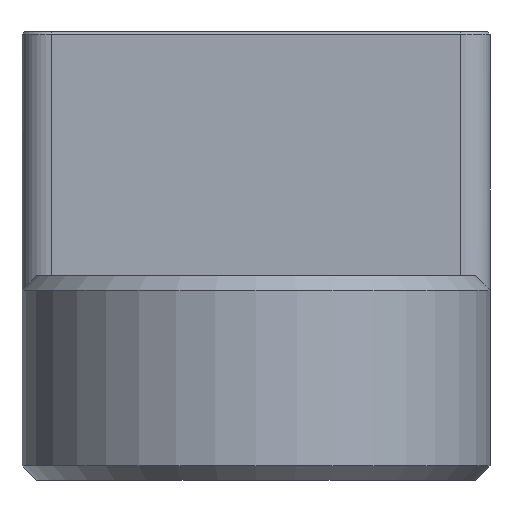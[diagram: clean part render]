
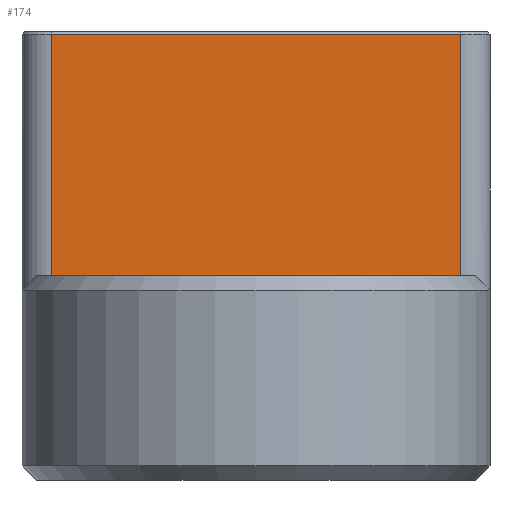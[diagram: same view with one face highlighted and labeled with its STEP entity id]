
A CAD part, front view. The second image highlights one B-rep face of the part: STEP entity #174.
In plain terms, the highlighted planar face has unit normal (0, -1, 0).
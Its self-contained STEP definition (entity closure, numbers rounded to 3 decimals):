
#174=ADVANCED_FACE('',(#417),#418,.F.);
#417=FACE_OUTER_BOUND('',#680,.T.);
#418=PLANE('',#681);
#680=EDGE_LOOP('',(#1464,#1465,#1466,#1467));
#681=AXIS2_PLACEMENT_3D('',#1468,#1469,#1470);
#1464=ORIENTED_EDGE('',*,*,#1612,.T.);
#1465=ORIENTED_EDGE('',*,*,#1720,.T.);
#1466=ORIENTED_EDGE('',*,*,#1621,.T.);
#1467=ORIENTED_EDGE('',*,*,#1587,.T.);
#1468=CARTESIAN_POINT('',(-40.3,19.,0.));
#1469=DIRECTION('',(0.0,1.0,0.0));
#1470=DIRECTION('',(0.0,0.0,1.0));
#1587=EDGE_CURVE('',#1873,#1871,#1874,.T.);
#1612=EDGE_CURVE('',#1871,#1919,#1921,.T.);
#1621=EDGE_CURVE('',#1937,#1873,#1938,.T.);
#1720=EDGE_CURVE('',#1919,#1937,#2105,.T.);
#1871=VERTEX_POINT('',#2316);
#1873=VERTEX_POINT('',#2318);
#1874=LINE('',#2319,#2320);
#1919=VERTEX_POINT('',#2377);
#1921=LINE('',#2379,#2380);
#1937=VERTEX_POINT('',#2399);
#1938=LINE('',#2400,#2401);
#2105=LINE('',#2635,#2636);
#2316=CARTESIAN_POINT('',(-10.3,19.,-16.7));
#2318=CARTESIAN_POINT('',(-38.3,19.,-16.7));
#2319=CARTESIAN_POINT('',(-40.3,19.,-16.7));
#2320=VECTOR('',#2889,1.0);
#2377=CARTESIAN_POINT('',(-10.3,19.,-0.2));
#2379=CARTESIAN_POINT('',(-10.3,19.,0.));
#2380=VECTOR('',#2938,1.0);
#2399=CARTESIAN_POINT('',(-38.3,19.,-0.2));
#2400=CARTESIAN_POINT('',(-38.3,19.,0.));
#2401=VECTOR('',#2957,1.0);
#2635=CARTESIAN_POINT('',(-38.3,19.,-0.2));
#2636=VECTOR('',#3118,1.0);
#2889=DIRECTION('',(1.0,0.0,0.0));
#2938=DIRECTION('',(0.0,0.0,1.0));
#2957=DIRECTION('',(0.0,0.0,-1.0));
#3118=DIRECTION('',(-1.0,0.0,0.0));
